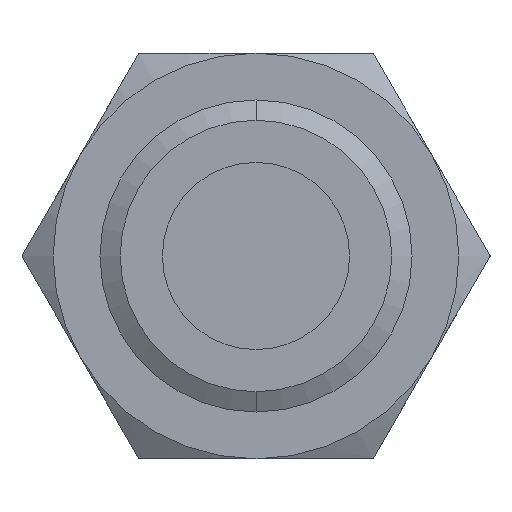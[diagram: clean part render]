
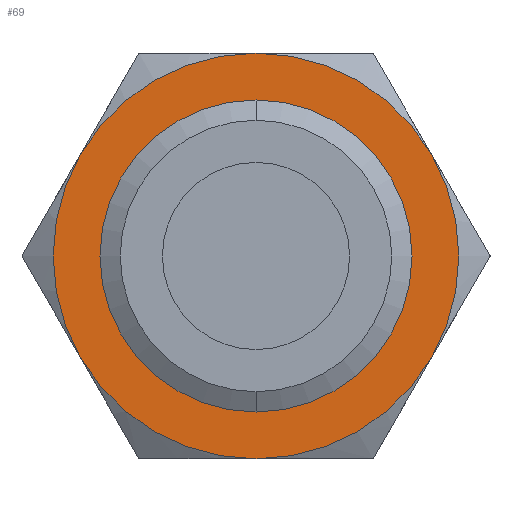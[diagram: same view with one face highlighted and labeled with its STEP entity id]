
A CAD part, front view. The second image highlights one B-rep face of the part: STEP entity #69.
In plain terms, the highlighted planar face has unit normal (0, -1, 0).
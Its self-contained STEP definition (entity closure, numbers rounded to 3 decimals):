
#8 = EDGE_CURVE ( 'NONE', #658, #360, #106, .T. ) ;
#40 = CARTESIAN_POINT ( 'NONE',  ( 0., 6., 0. ) ) ;
#41 = ORIENTED_EDGE ( 'NONE', *, *, #617, .F. ) ;
#69 = ADVANCED_FACE ( 'NONE', ( #427, #467 ), #110, .F. ) ;
#106 = CIRCLE ( 'NONE', #1211, 6.5 ) ;
#108 = VERTEX_POINT ( 'NONE', #1154 ) ;
#110 = PLANE ( 'NONE',  #594 ) ;
#124 = VERTEX_POINT ( 'NONE', #583 ) ;
#156 = DIRECTION ( 'NONE',  ( 0., 0., 1. ) ) ;
#179 = CARTESIAN_POINT ( 'NONE',  ( 0., 6., 4.35 ) ) ;
#183 = DIRECTION ( 'NONE',  ( 0., 0., 1. ) ) ;
#186 = CARTESIAN_POINT ( 'NONE',  ( 0., 6., 0. ) ) ;
#201 = EDGE_CURVE ( 'NONE', #673, #108, #564, .T. ) ;
#204 = CARTESIAN_POINT ( 'NONE',  ( 0., 6., -4.35 ) ) ;
#275 = EDGE_CURVE ( 'NONE', #124, #673, #687, .T. ) ;
#291 = ORIENTED_EDGE ( 'NONE', *, *, #201, .F. ) ;
#313 = DIRECTION ( 'NONE',  ( 0., 0., 1. ) ) ;
#360 = VERTEX_POINT ( 'NONE', #629 ) ;
#377 = ORIENTED_EDGE ( 'NONE', *, *, #8, .F. ) ;
#378 = DIRECTION ( 'NONE',  ( 0., 0., 1. ) ) ;
#384 = AXIS2_PLACEMENT_3D ( 'NONE', #1431, #744, #183 ) ;
#392 = DIRECTION ( 'NONE',  ( 0., 1., 0. ) ) ;
#398 = DIRECTION ( 'NONE',  ( 0., 1., 0. ) ) ;
#408 = EDGE_CURVE ( 'NONE', #732, #634, #1127, .T. ) ;
#427 = FACE_OUTER_BOUND ( 'NONE', #548, .T. ) ;
#467 = FACE_BOUND ( 'NONE', #983, .T. ) ;
#502 = CARTESIAN_POINT ( 'NONE',  ( 0., 6., 0. ) ) ;
#541 = CARTESIAN_POINT ( 'NONE',  ( 0., 6., 0. ) ) ;
#548 = EDGE_LOOP ( 'NONE', ( #927, #890, #377, #902, #41, #291 ) ) ;
#564 = CIRCLE ( 'NONE', #1378, 6.5 ) ;
#583 = CARTESIAN_POINT ( 'NONE',  ( 0., 6., 6.5 ) ) ;
#594 = AXIS2_PLACEMENT_3D ( 'NONE', #675, #1239, #1254 ) ;
#617 = EDGE_CURVE ( 'NONE', #108, #1415, #1338, .T. ) ;
#629 = CARTESIAN_POINT ( 'NONE',  ( -5.629, 6., 3.25 ) ) ;
#634 = VERTEX_POINT ( 'NONE', #179 ) ;
#656 = CARTESIAN_POINT ( 'NONE',  ( 5.629, 6., 3.25 ) ) ;
#658 = VERTEX_POINT ( 'NONE', #896 ) ;
#662 = AXIS2_PLACEMENT_3D ( 'NONE', #1030, #1149, #794 ) ;
#673 = VERTEX_POINT ( 'NONE', #656 ) ;
#675 = CARTESIAN_POINT ( 'NONE',  ( 4.35, 6., 0. ) ) ;
#687 = CIRCLE ( 'NONE', #832, 6.5 ) ;
#720 = CARTESIAN_POINT ( 'NONE',  ( 0., 6., 0. ) ) ;
#732 = VERTEX_POINT ( 'NONE', #204 ) ;
#734 = DIRECTION ( 'NONE',  ( 0., 1., 0. ) ) ;
#744 = DIRECTION ( 'NONE',  ( 0., 1., 0. ) ) ;
#747 = AXIS2_PLACEMENT_3D ( 'NONE', #40, #1413, #378 ) ;
#793 = AXIS2_PLACEMENT_3D ( 'NONE', #502, #971, #957 ) ;
#794 = DIRECTION ( 'NONE',  ( 0., 0., 1. ) ) ;
#821 = CIRCLE ( 'NONE', #793, 4.35 ) ;
#832 = AXIS2_PLACEMENT_3D ( 'NONE', #965, #398, #1420 ) ;
#882 = AXIS2_PLACEMENT_3D ( 'NONE', #186, #734, #1201 ) ;
#890 = ORIENTED_EDGE ( 'NONE', *, *, #1248, .F. ) ;
#896 = CARTESIAN_POINT ( 'NONE',  ( -5.629, 6., -3.25 ) ) ;
#902 = ORIENTED_EDGE ( 'NONE', *, *, #1188, .F. ) ;
#927 = ORIENTED_EDGE ( 'NONE', *, *, #275, .F. ) ;
#952 = EDGE_CURVE ( 'NONE', #634, #732, #821, .T. ) ;
#957 = DIRECTION ( 'NONE',  ( 0., 0., 1. ) ) ;
#965 = CARTESIAN_POINT ( 'NONE',  ( 0., 6., 0. ) ) ;
#971 = DIRECTION ( 'NONE',  ( 0., 1., 0. ) ) ;
#983 = EDGE_LOOP ( 'NONE', ( #1288, #1117 ) ) ;
#1030 = CARTESIAN_POINT ( 'NONE',  ( 0., 6., 0. ) ) ;
#1117 = ORIENTED_EDGE ( 'NONE', *, *, #408, .T. ) ;
#1127 = CIRCLE ( 'NONE', #662, 4.35 ) ;
#1135 = CIRCLE ( 'NONE', #882, 6.5 ) ;
#1149 = DIRECTION ( 'NONE',  ( 0., 1., 0. ) ) ;
#1154 = CARTESIAN_POINT ( 'NONE',  ( 5.629, 6., -3.25 ) ) ;
#1188 = EDGE_CURVE ( 'NONE', #1415, #658, #1204, .T. ) ;
#1201 = DIRECTION ( 'NONE',  ( 0., 0., 1. ) ) ;
#1204 = CIRCLE ( 'NONE', #747, 6.5 ) ;
#1211 = AXIS2_PLACEMENT_3D ( 'NONE', #541, #1225, #313 ) ;
#1225 = DIRECTION ( 'NONE',  ( 0., 1., 0. ) ) ;
#1237 = CARTESIAN_POINT ( 'NONE',  ( 0., 6., -6.5 ) ) ;
#1239 = DIRECTION ( 'NONE',  ( 0., 1., 0. ) ) ;
#1248 = EDGE_CURVE ( 'NONE', #360, #124, #1135, .T. ) ;
#1254 = DIRECTION ( 'NONE',  ( 0., 0., 1. ) ) ;
#1288 = ORIENTED_EDGE ( 'NONE', *, *, #952, .T. ) ;
#1338 = CIRCLE ( 'NONE', #384, 6.5 ) ;
#1378 = AXIS2_PLACEMENT_3D ( 'NONE', #720, #392, #156 ) ;
#1413 = DIRECTION ( 'NONE',  ( 0., 1., 0. ) ) ;
#1415 = VERTEX_POINT ( 'NONE', #1237 ) ;
#1420 = DIRECTION ( 'NONE',  ( 0., 0., 1. ) ) ;
#1431 = CARTESIAN_POINT ( 'NONE',  ( 0., 6., 0. ) ) ;
